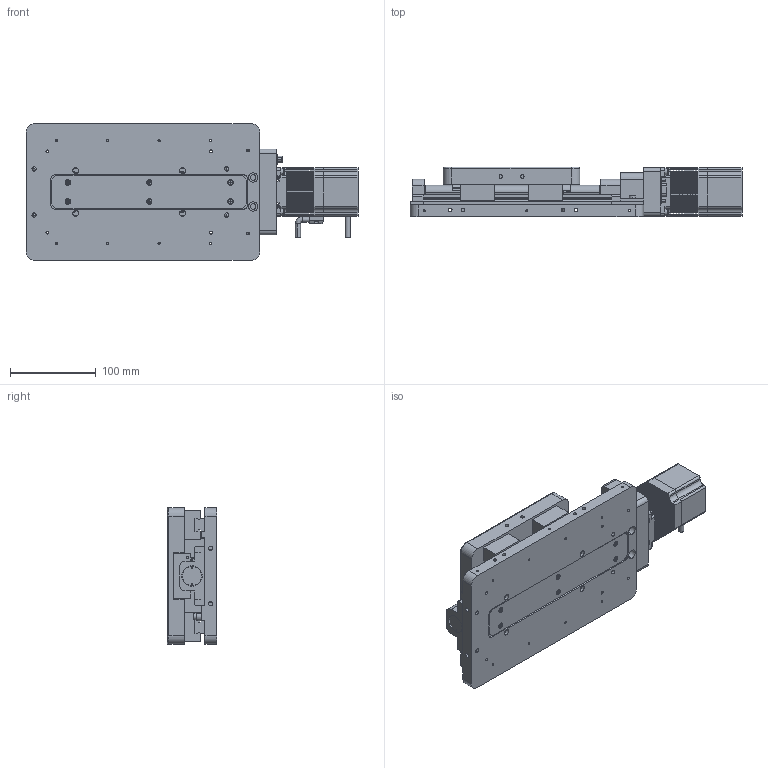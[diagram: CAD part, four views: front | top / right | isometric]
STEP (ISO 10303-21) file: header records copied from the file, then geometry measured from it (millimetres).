
FILE_DESCRIPTION (( 'STEP AP203' ), '1' );
FILE_NAME ('7STA0950C萇雄す痄怢.STEP', '2022-04-14T05:20:17', ( '' ), ( '' ), 'SwSTEP 2.0', 'SolidWorks 2018', '' );
FILE_SCHEMA (( 'CONFIG_CONTROL_DESIGN' ));
Length unit declared in the file: millimetre
Products named in the file (1): 7STA0950C萇雄す痄怢
Bounding box: 388 x 58 x 160 mm (x, y, z)
Surface area: 294893.7 mm2 (no closed solid volume)
Topology: 0 solids, 300 shells, 2627 faces, 8736 edges, 6273 vertices
Faces by surface type: cylinder 1258, plane 1191, torus 84, cone 60, sphere 20, bspline 14
Entity records: 94653 total; most frequent: CARTESIAN_POINT 19347, DIRECTION 16938, ORIENTED_EDGE 12249, EDGE_CURVE 8668, VERTEX_POINT 6257, AXIS2_PLACEMENT_3D 5866, VECTOR 5206, LINE 5206
